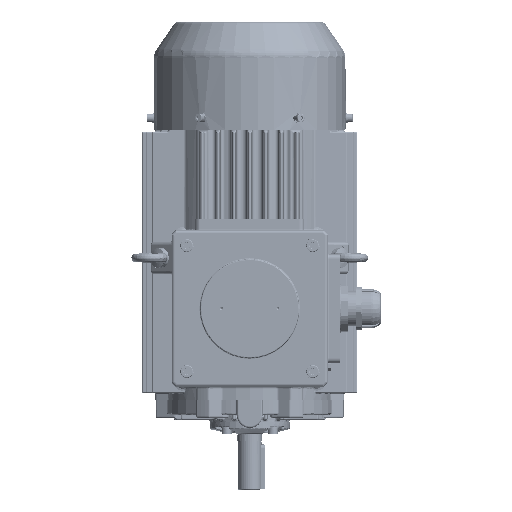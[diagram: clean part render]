
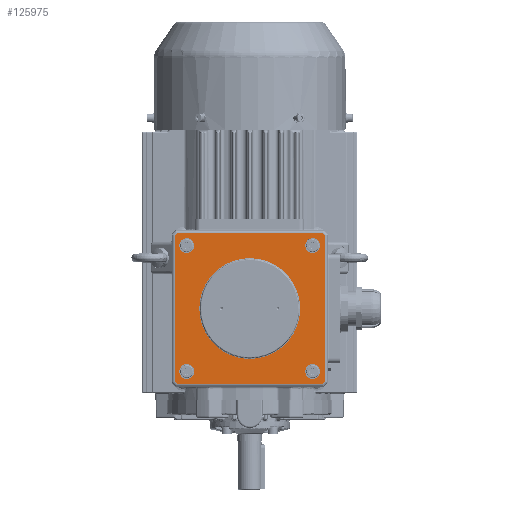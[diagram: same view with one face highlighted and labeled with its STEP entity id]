
A CAD part, top view. The second image highlights one B-rep face of the part: STEP entity #125975.
In plain terms, the highlighted planar face has unit normal (0, 0, 1).
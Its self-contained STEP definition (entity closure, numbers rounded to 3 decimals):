
#10954=LINE('',#206471,#16701);
#10955=LINE('',#206476,#16702);
#10958=LINE('',#206483,#16705);
#10959=LINE('',#206488,#16706);
#10962=LINE('',#206495,#16709);
#10963=LINE('',#206500,#16710);
#10966=LINE('',#206507,#16713);
#10968=LINE('',#206510,#16715);
#16701=VECTOR('',#159601,1000.);
#16702=VECTOR('',#159606,1000.);
#16705=VECTOR('',#159613,1000.);
#16706=VECTOR('',#159618,1000.);
#16709=VECTOR('',#159625,1000.);
#16710=VECTOR('',#159630,1000.);
#16713=VECTOR('',#159637,1000.);
#16715=VECTOR('',#159641,1000.);
#39973=ORIENTED_EDGE('',*,*,#54718,.F.);
#39974=ORIENTED_EDGE('',*,*,#54703,.T.);
#39975=ORIENTED_EDGE('',*,*,#54697,.T.);
#39976=ORIENTED_EDGE('',*,*,#54699,.T.);
#39977=ORIENTED_EDGE('',*,*,#54705,.T.);
#39978=ORIENTED_EDGE('',*,*,#54711,.T.);
#39979=ORIENTED_EDGE('',*,*,#54717,.T.);
#39980=ORIENTED_EDGE('',*,*,#54715,.T.);
#39981=ORIENTED_EDGE('',*,*,#54709,.T.);
#39982=ORIENTED_EDGE('',*,*,#54689,.T.);
#39983=ORIENTED_EDGE('',*,*,#54682,.T.);
#39984=ORIENTED_EDGE('',*,*,#54675,.T.);
#39985=ORIENTED_EDGE('',*,*,#54671,.T.);
#54671=EDGE_CURVE('',#63620,#63620,#68991,.T.);
#54675=EDGE_CURVE('',#63624,#63624,#68995,.T.);
#54682=EDGE_CURVE('',#63630,#63630,#69000,.T.);
#54689=EDGE_CURVE('',#63636,#63636,#69005,.T.);
#54697=EDGE_CURVE('',#63640,#63643,#10954,.T.);
#54699=EDGE_CURVE('',#63643,#63644,#10955,.T.);
#54703=EDGE_CURVE('',#63646,#63640,#10958,.T.);
#54705=EDGE_CURVE('',#63644,#63648,#10959,.T.);
#54709=EDGE_CURVE('',#63650,#63646,#10962,.T.);
#54711=EDGE_CURVE('',#63648,#63652,#10963,.T.);
#54715=EDGE_CURVE('',#63654,#63650,#10966,.T.);
#54717=EDGE_CURVE('',#63652,#63654,#10968,.T.);
#54718=EDGE_CURVE('',#63656,#63656,#69008,.T.);
#63620=VERTEX_POINT('',#206411);
#63624=VERTEX_POINT('',#206422);
#63630=VERTEX_POINT('',#206438);
#63636=VERTEX_POINT('',#206454);
#63640=VERTEX_POINT('',#206465);
#63643=VERTEX_POINT('',#206470);
#63644=VERTEX_POINT('',#206474);
#63646=VERTEX_POINT('',#206480);
#63648=VERTEX_POINT('',#206486);
#63650=VERTEX_POINT('',#206492);
#63652=VERTEX_POINT('',#206498);
#63654=VERTEX_POINT('',#206504);
#63656=VERTEX_POINT('',#206513);
#68991=CIRCLE('',#135444,7.5);
#68995=CIRCLE('',#135451,7.5);
#69000=CIRCLE('',#135459,7.5);
#69005=CIRCLE('',#135467,7.5);
#69008=CIRCLE('',#135488,51.);
#75079=EDGE_LOOP('',(#39973));
#75080=EDGE_LOOP('',(#39974,#39975,#39976,#39977,#39978,#39979,#39980,#39981));
#75081=EDGE_LOOP('',(#39982));
#75082=EDGE_LOOP('',(#39983));
#75083=EDGE_LOOP('',(#39984));
#75084=EDGE_LOOP('',(#39985));
#81470=FACE_BOUND('',#75079,.T.);
#81471=FACE_BOUND('',#75080,.T.);
#81472=FACE_BOUND('',#75081,.T.);
#81473=FACE_BOUND('',#75082,.T.);
#81474=FACE_BOUND('',#75083,.T.);
#81475=FACE_BOUND('',#75084,.T.);
#84164=PLANE('',#135495);
#125975=ADVANCED_FACE('',(#81470,#81471,#81472,#81473,#81474,#81475),#84164,
 .T.);
#135444=AXIS2_PLACEMENT_3D('',#206410,#159534,#159535);
#135451=AXIS2_PLACEMENT_3D('',#206421,#159548,#159549);
#135459=AXIS2_PLACEMENT_3D('',#206437,#159566,#159567);
#135467=AXIS2_PLACEMENT_3D('',#206453,#159584,#159585);
#135488=AXIS2_PLACEMENT_3D('',#206512,#159644,#159645);
#135495=AXIS2_PLACEMENT_3D('',#206523,#159658,#159659);
#159534=DIRECTION('',(0.,0.,-1.));
#159535=DIRECTION('',(1.,0.,0.));
#159548=DIRECTION('',(0.,0.,-1.));
#159549=DIRECTION('',(1.,0.,0.));
#159566=DIRECTION('',(0.,0.,-1.));
#159567=DIRECTION('',(1.,0.,0.));
#159584=DIRECTION('',(0.,0.,-1.));
#159585=DIRECTION('',(1.,0.,0.));
#159601=DIRECTION('',(0.707,0.707,0.));
#159606=DIRECTION('',(0.,1.,0.));
#159613=DIRECTION('',(1.,0.,0.));
#159618=DIRECTION('',(-0.707,0.707,0.));
#159625=DIRECTION('',(0.707,-0.707,0.));
#159630=DIRECTION('',(-1.,0.,0.));
#159637=DIRECTION('',(0.,-1.,0.));
#159641=DIRECTION('',(-0.707,-0.707,0.));
#159644=DIRECTION('',(0.,0.,1.));
#159645=DIRECTION('',(1.,0.,0.));
#159658=DIRECTION('',(0.,0.,1.));
#159659=DIRECTION('',(1.,0.,0.));
#206410=CARTESIAN_POINT('',(63.64,160.64,247.));
#206411=CARTESIAN_POINT('',(71.14,160.64,247.));
#206421=CARTESIAN_POINT('',(63.64,33.36,247.));
#206422=CARTESIAN_POINT('',(71.14,33.36,247.));
#206437=CARTESIAN_POINT('',(-63.64,33.36,247.));
#206438=CARTESIAN_POINT('',(-56.14,33.36,247.));
#206453=CARTESIAN_POINT('',(-63.64,160.64,247.));
#206454=CARTESIAN_POINT('',(-56.14,160.64,247.));
#206465=CARTESIAN_POINT('',(73.757,21.,247.));
#206470=CARTESIAN_POINT('',(76.,23.243,247.));
#206471=CARTESIAN_POINT('',(74.879,22.121,247.));
#206474=CARTESIAN_POINT('',(76.,170.757,247.));
#206476=CARTESIAN_POINT('',(76.,97.,247.));
#206480=CARTESIAN_POINT('',(-73.757,21.,247.));
#206483=CARTESIAN_POINT('',(0.,21.,247.));
#206486=CARTESIAN_POINT('',(73.757,173.,247.));
#206488=CARTESIAN_POINT('',(74.879,171.879,247.));
#206492=CARTESIAN_POINT('',(-76.,23.243,247.));
#206495=CARTESIAN_POINT('',(-74.879,22.121,247.));
#206498=CARTESIAN_POINT('',(-73.757,173.,247.));
#206500=CARTESIAN_POINT('',(0.,173.,247.));
#206504=CARTESIAN_POINT('',(-76.,170.757,247.));
#206507=CARTESIAN_POINT('',(-76.,97.,247.));
#206510=CARTESIAN_POINT('',(-74.879,171.879,247.));
#206512=CARTESIAN_POINT('',(0.,97.,247.));
#206513=CARTESIAN_POINT('',(51.,97.,247.));
#206523=CARTESIAN_POINT('',(0.,97.,247.));
